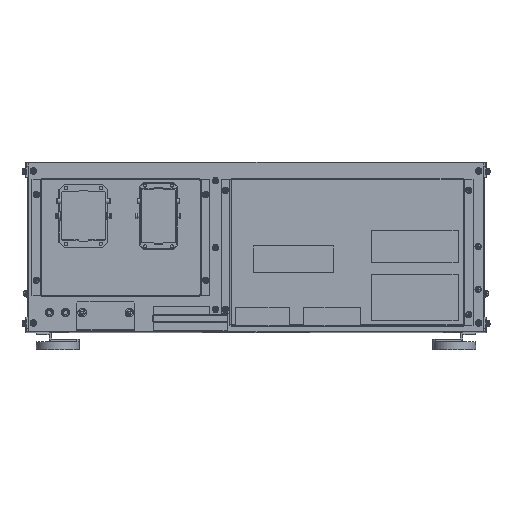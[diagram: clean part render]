
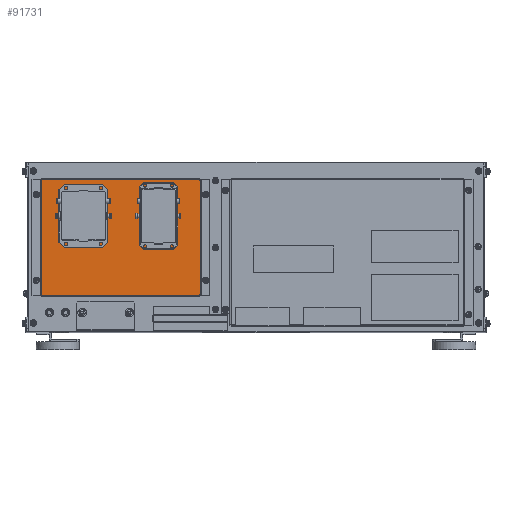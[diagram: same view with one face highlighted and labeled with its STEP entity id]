
A CAD part, top view. The second image highlights one B-rep face of the part: STEP entity #91731.
In plain terms, the highlighted planar face has unit normal (0, 0, 1).
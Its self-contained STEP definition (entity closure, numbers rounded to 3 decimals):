
#5990 = LINE ( 'NONE', #5991, #119318 ) ;
#5991 = CARTESIAN_POINT ( 'NONE',  ( -73.245, -31.945, 231.722 ) ) ;
#5992 = DIRECTION ( 'NONE',  ( -1., 0., 0. ) ) ;
#5997 = LINE ( 'NONE', #5998, #119462 ) ;
#5998 = CARTESIAN_POINT ( 'NONE',  ( -72.645, 74.455, 231.722 ) ) ;
#5999 = DIRECTION ( 'NONE',  ( 1., 0., 0. ) ) ;
#6002 = LINE ( 'NONE', #6003, #119545 ) ;
#6003 = CARTESIAN_POINT ( 'NONE',  ( -73.245, 74.455, 231.722 ) ) ;
#6004 = DIRECTION ( 'NONE',  ( 0., -1., 0. ) ) ;
#6008 = LINE ( 'NONE', #6009, #119429 ) ;
#6009 = CARTESIAN_POINT ( 'NONE',  ( -220.645, 75.055, 231.722 ) ) ;
#6010 = DIRECTION ( 'NONE',  ( 1., 0., 0. ) ) ;
#6012 = LINE ( 'NONE', #6013, #119449 ) ;
#6013 = CARTESIAN_POINT ( 'NONE',  ( -73.245, -32.545, 231.722 ) ) ;
#6014 = DIRECTION ( 'NONE',  ( 0., -1., 0. ) ) ;
#6018 = LINE ( 'NONE', #6019, #119447 ) ;
#6019 = CARTESIAN_POINT ( 'NONE',  ( -73.245, -32.545, 231.722 ) ) ;
#6020 = DIRECTION ( 'NONE',  ( -1., 0., 0. ) ) ;
#6069 = CARTESIAN_POINT ( 'NONE',  ( -73.145, -31.945, 231.722 ) ) ;
#6076 = CARTESIAN_POINT ( 'NONE',  ( -73.145, 74.455, 231.722 ) ) ;
#6363 = CARTESIAN_POINT ( 'NONE',  ( -220.645, -32.545, 231.722 ) ) ;
#6364 = CARTESIAN_POINT ( 'NONE',  ( -220.645, 75.055, 231.722 ) ) ;
#10123 = VECTOR ( 'NONE', #10848, 1000. ) ;
#10128 = VECTOR ( 'NONE', #10863, 1000. ) ;
#10846 = LINE ( 'NONE', #10847, #10123 ) ;
#10847 = CARTESIAN_POINT ( 'NONE',  ( -220.645, 76.255, 231.722 ) ) ;
#10848 = DIRECTION ( 'NONE',  ( 0., -1., 0. ) ) ;
#10861 = LINE ( 'NONE', #10862, #10128 ) ;
#10862 = CARTESIAN_POINT ( 'NONE',  ( -73.145, 76.255, 231.722 ) ) ;
#10863 = DIRECTION ( 'NONE',  ( 0., 1., 0. ) ) ;
#32579 = EDGE_CURVE ( 'NONE', #33305, #122016, #5990, .T. ) ;
#32583 = EDGE_CURVE ( 'NONE', #122017, #33318, #5997, .T. ) ;
#32589 = EDGE_CURVE ( 'NONE', #122018, #122017, #6002, .T. ) ;
#32609 = EDGE_CURVE ( 'NONE', #33745, #122018, #6008, .T. ) ;
#32611 = EDGE_CURVE ( 'NONE', #122016, #122015, #6012, .T. ) ;
#32615 = EDGE_CURVE ( 'NONE', #122015, #33744, #6018, .T. ) ;
#33305 = VERTEX_POINT ( 'NONE', #6069 ) ;
#33318 = VERTEX_POINT ( 'NONE', #6076 ) ;
#33744 = VERTEX_POINT ( 'NONE', #6363 ) ;
#33745 = VERTEX_POINT ( 'NONE', #6364 ) ;
#36206 = AXIS2_PLACEMENT_3D ( 'NONE', #115316, #115318, #115320 ) ;
#36225 = FACE_OUTER_BOUND ( 'NONE', #41280, .T. ) ;
#41280 = EDGE_LOOP ( 'NONE', ( #48989, #49067, #49060, #49090, #49120, #49126, #49125, #49168 ) ) ;
#48989 = ORIENTED_EDGE ( 'NONE', *, *, #32615, .F. ) ;
#49060 = ORIENTED_EDGE ( 'NONE', *, *, #32579, .F. ) ;
#49067 = ORIENTED_EDGE ( 'NONE', *, *, #32611, .F. ) ;
#49090 = ORIENTED_EDGE ( 'NONE', *, *, #93987, .T. ) ;
#49120 = ORIENTED_EDGE ( 'NONE', *, *, #32583, .F. ) ;
#49125 = ORIENTED_EDGE ( 'NONE', *, *, #32609, .F. ) ;
#49126 = ORIENTED_EDGE ( 'NONE', *, *, #32589, .F. ) ;
#49168 = ORIENTED_EDGE ( 'NONE', *, *, #93982, .T. ) ;
#81327 = CARTESIAN_POINT ( 'NONE',  ( -73.245, -32.545, 231.722 ) ) ;
#81329 = CARTESIAN_POINT ( 'NONE',  ( -73.245, -31.945, 231.722 ) ) ;
#81331 = CARTESIAN_POINT ( 'NONE',  ( -73.245, 74.455, 231.722 ) ) ;
#81333 = CARTESIAN_POINT ( 'NONE',  ( -73.245, 75.055, 231.722 ) ) ;
#91731 = ADVANCED_FACE ( 'NONE', ( #36225 ), #115314, .T. ) ;
#93982 = EDGE_CURVE ( 'NONE', #33745, #33744, #10846, .T. ) ;
#93987 = EDGE_CURVE ( 'NONE', #33305, #33318, #10861, .T. ) ;
#115314 = PLANE ( 'NONE',  #36206 ) ;
#115316 = CARTESIAN_POINT ( 'NONE',  ( -221.945, 76.255, 231.722 ) ) ;
#115318 = DIRECTION ( 'NONE',  ( 0., 0., 1. ) ) ;
#115320 = DIRECTION ( 'NONE',  ( 1., 0., 0. ) ) ;
#119318 = VECTOR ( 'NONE', #5992, 1000. ) ;
#119429 = VECTOR ( 'NONE', #6010, 1000. ) ;
#119447 = VECTOR ( 'NONE', #6020, 1000. ) ;
#119449 = VECTOR ( 'NONE', #6014, 1000. ) ;
#119462 = VECTOR ( 'NONE', #5999, 1000. ) ;
#119545 = VECTOR ( 'NONE', #6004, 1000. ) ;
#122015 = VERTEX_POINT ( 'NONE', #81327 ) ;
#122016 = VERTEX_POINT ( 'NONE', #81329 ) ;
#122017 = VERTEX_POINT ( 'NONE', #81331 ) ;
#122018 = VERTEX_POINT ( 'NONE', #81333 ) ;
